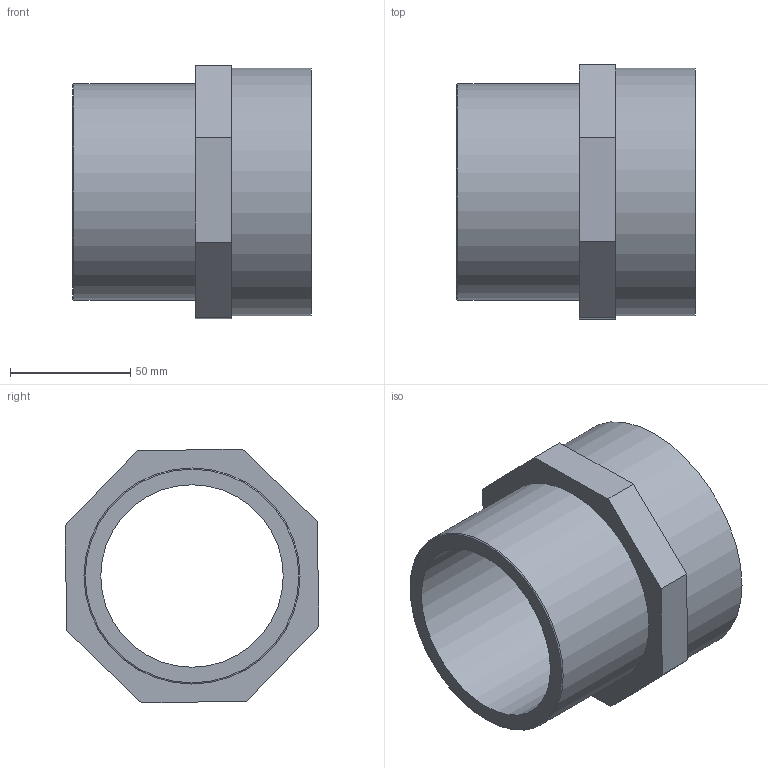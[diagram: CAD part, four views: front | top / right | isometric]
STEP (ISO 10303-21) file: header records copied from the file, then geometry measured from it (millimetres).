
FILE_DESCRIPTION(/* description */ (''),/* implementation_level */ '2;1');
FILE_NAME(/* name */ 'C:\Users\Gabriele\Desktop\disegni 3D\SF12\SF12090I.stp',/* time_stamp */ '2017-02-10T14:26:48+01:00',/* author */ ('Gabriele'),/* organization */ (''),/* preprocessor_version */ 'ST-DEVELOPER v16.5',/* originating_system */ 'Autodesk Inventor 2017',/* authorisation */ '');
FILE_SCHEMA (('AUTOMOTIVE_DESIGN { 1 0 10303 214 3 1 1 }'));
Length unit declared in the file: millimetre
Products named in the file (1): SF12090I
Bounding box: 99.3 x 105.72 x 105.72 mm (x, y, z)
Volume: 244425.2 mm3; surface area: 89523.7 mm2
Topology: 2 solids, 2 shells, 28 faces, 62 edges, 41 vertices
Faces by surface type: plane 15, cylinder 6, bspline 6, torus 1
Full cylindrical faces by diameter (mm): 76 x1, 87.88 x2, 90 x1, 103 x1
Entity records: 7359 total; most frequent: CARTESIAN_POINT 6769, ORIENTED_EDGE 112, DIRECTION 96, EDGE_CURVE 56, EDGE_LOOP 41, VERTEX_POINT 41, AXIS2_PLACEMENT_3D 36, FACE_OUTER_BOUND 28
